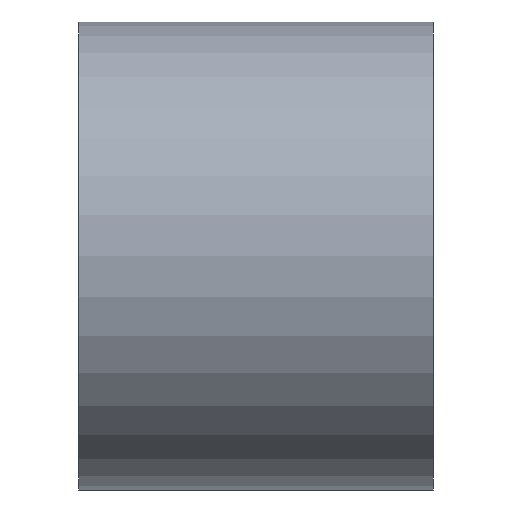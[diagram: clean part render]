
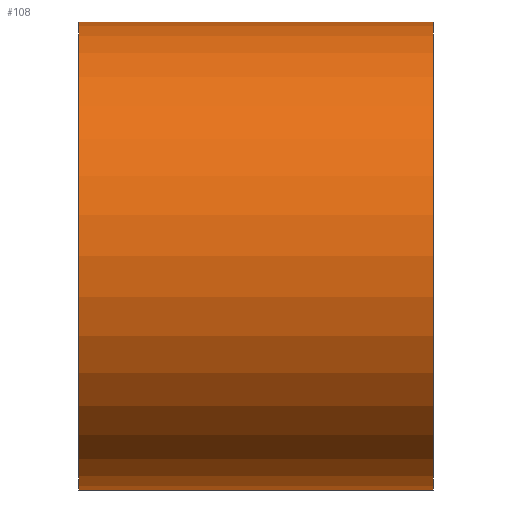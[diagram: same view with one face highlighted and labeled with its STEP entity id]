
A CAD part, front view. The second image highlights one B-rep face of the part: STEP entity #108.
In plain terms, the highlighted cylindrical face has radius 330 mm (diameter 660 mm), a partial arc.
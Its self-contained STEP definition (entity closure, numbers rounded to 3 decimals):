
#108=ADVANCED_FACE('',(#212),#213,.T.);
#212=FACE_OUTER_BOUND('',#335,.T.);
#213=CYLINDRICAL_SURFACE('',#336,330.0);
#335=EDGE_LOOP('',(#587,#588,#589,#590));
#336=AXIS2_PLACEMENT_3D('',#591,#592,#593);
#587=ORIENTED_EDGE('',*,*,#659,.T.);
#588=ORIENTED_EDGE('',*,*,#768,.F.);
#589=ORIENTED_EDGE('',*,*,#661,.T.);
#590=ORIENTED_EDGE('',*,*,#769,.F.);
#591=CARTESIAN_POINT('',(0.0,0.0,0.0));
#592=DIRECTION('',(1.0,0.0,0.0));
#593=DIRECTION('',(0.0,0.0,-1.0));
#659=EDGE_CURVE('',#773,#774,#775,.T.);
#661=EDGE_CURVE('',#778,#776,#779,.T.);
#768=EDGE_CURVE('',#778,#774,#938,.T.);
#769=EDGE_CURVE('',#773,#776,#939,.T.);
#773=VERTEX_POINT('',#943);
#774=VERTEX_POINT('',#944);
#775=LINE('',#945,#946);
#776=VERTEX_POINT('',#947);
#778=VERTEX_POINT('',#949);
#779=LINE('',#950,#951);
#938=CIRCLE('',#1136,330.0);
#939=CIRCLE('',#1137,330.0);
#943=CARTESIAN_POINT('',(-250.0,0.0,-330.0));
#944=CARTESIAN_POINT('',(250.0,0.0,-330.0));
#945=CARTESIAN_POINT('',(0.0,0.,-330.0));
#946=VECTOR('',#1140,1.0);
#947=CARTESIAN_POINT('',(-250.0,0.,330.0));
#949=CARTESIAN_POINT('',(250.0,0.,330.0));
#950=CARTESIAN_POINT('',(0.0,0.,330.0));
#951=VECTOR('',#1144,1.0);
#1136=AXIS2_PLACEMENT_3D('',#1330,#1331,#1332);
#1137=AXIS2_PLACEMENT_3D('',#1333,#1334,#1335);
#1140=DIRECTION('',(1.0,0.0,0.0));
#1144=DIRECTION('',(-1.0,-0.0,-0.0));
#1330=CARTESIAN_POINT('',(250.0,0.0,0.0));
#1331=DIRECTION('',(1.0,0.0,0.0));
#1332=DIRECTION('',(0.0,0.0,-1.0));
#1333=CARTESIAN_POINT('',(-250.0,0.0,0.0));
#1334=DIRECTION('',(-1.0,0.0,0.0));
#1335=DIRECTION('',(0.0,0.0,-1.0));
